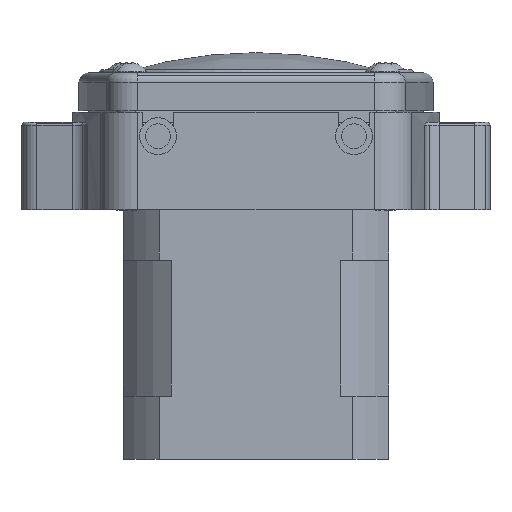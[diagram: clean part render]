
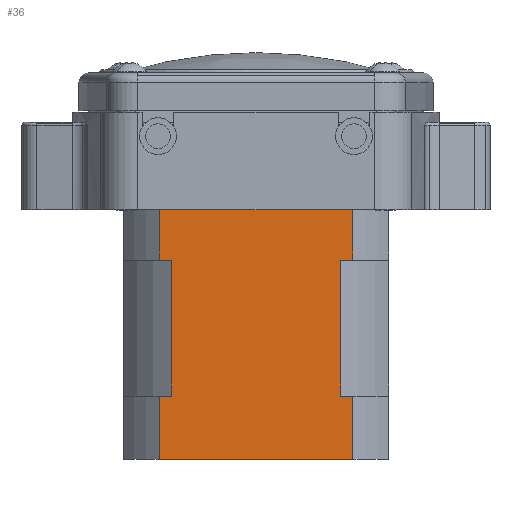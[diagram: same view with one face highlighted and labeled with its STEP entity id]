
A CAD part, front view. The second image highlights one B-rep face of the part: STEP entity #36.
In plain terms, the highlighted planar face has unit normal (0, -1, 0) as drawn and (0, 1, 0) by its records, which use the part's own axes.
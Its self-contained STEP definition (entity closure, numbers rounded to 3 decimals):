
#36 = ADVANCED_FACE ( 'NONE', ( #3004 ), #5432, .F. ) ;
#109 = VERTEX_POINT ( 'NONE', #11764 ) ;
#455 = CARTESIAN_POINT ( 'NONE',  ( -15.33, 21., -42. ) ) ;
#1117 = LINE ( 'NONE', #7301, #4912 ) ;
#1677 = CARTESIAN_POINT ( 'NONE',  ( 15.33, 21., -32. ) ) ;
#1690 = VERTEX_POINT ( 'NONE', #5611 ) ;
#1721 = ORIENTED_EDGE ( 'NONE', *, *, #1943, .T. ) ;
#1756 = LINE ( 'NONE', #18606, #18982 ) ;
#1943 = EDGE_CURVE ( 'NONE', #4294, #1690, #11090, .T. ) ;
#2139 = VERTEX_POINT ( 'NONE', #1677 ) ;
#2161 = EDGE_CURVE ( 'NONE', #20255, #11031, #14706, .T. ) ;
#2212 = AXIS2_PLACEMENT_3D ( 'NONE', #11487, #5166, #13231 ) ;
#2366 = EDGE_CURVE ( 'NONE', #13468, #2139, #1117, .T. ) ;
#2418 = CARTESIAN_POINT ( 'NONE',  ( 15.33, 21., -42. ) ) ;
#2888 = VERTEX_POINT ( 'NONE', #8568 ) ;
#2992 = VECTOR ( 'NONE', #15596, 1000. ) ;
#3004 = FACE_OUTER_BOUND ( 'NONE', #12060, .T. ) ;
#3199 = VECTOR ( 'NONE', #12692, 1000. ) ;
#3604 = ORIENTED_EDGE ( 'NONE', *, *, #23627, .T. ) ;
#3638 = VERTEX_POINT ( 'NONE', #6325 ) ;
#3762 = CARTESIAN_POINT ( 'NONE',  ( 21., 21., -10.5 ) ) ;
#4294 = VERTEX_POINT ( 'NONE', #16306 ) ;
#4406 = LINE ( 'NONE', #24883, #24873 ) ;
#4912 = VECTOR ( 'NONE', #7711, 1000. ) ;
#4922 = CARTESIAN_POINT ( 'NONE',  ( 21., 21., -2. ) ) ;
#4973 = EDGE_CURVE ( 'NONE', #3638, #2888, #9965, .T. ) ;
#5067 = VERTEX_POINT ( 'NONE', #20486 ) ;
#5091 = ORIENTED_EDGE ( 'NONE', *, *, #25705, .F. ) ;
#5166 = DIRECTION ( 'NONE',  ( 0., -1., 0. ) ) ;
#5432 = PLANE ( 'NONE',  #2212 ) ;
#5611 = CARTESIAN_POINT ( 'NONE',  ( 15.33, 21., -2. ) ) ;
#5765 = DIRECTION ( 'NONE',  ( 0., 0., 1. ) ) ;
#5982 = VERTEX_POINT ( 'NONE', #11039 ) ;
#6039 = DIRECTION ( 'NONE',  ( 0., 0., -1. ) ) ;
#6325 = CARTESIAN_POINT ( 'NONE',  ( 13.379, 21., -10.5 ) ) ;
#6731 = VECTOR ( 'NONE', #6039, 1000. ) ;
#7301 = CARTESIAN_POINT ( 'NONE',  ( 13.379, 21., -32. ) ) ;
#7418 = ORIENTED_EDGE ( 'NONE', *, *, #2161, .F. ) ;
#7709 = EDGE_CURVE ( 'NONE', #5067, #5982, #25364, .T. ) ;
#7711 = DIRECTION ( 'NONE',  ( 1., 0., 0. ) ) ;
#8375 = VERTEX_POINT ( 'NONE', #23930 ) ;
#8482 = CARTESIAN_POINT ( 'NONE',  ( -15.33, 21., -36. ) ) ;
#8568 = CARTESIAN_POINT ( 'NONE',  ( 15.33, 21., -10.5 ) ) ;
#8776 = EDGE_CURVE ( 'NONE', #8375, #2139, #20783, .T. ) ;
#9965 = LINE ( 'NONE', #3762, #2992 ) ;
#10145 = EDGE_CURVE ( 'NONE', #2888, #1690, #17825, .T. ) ;
#10583 = DIRECTION ( 'NONE',  ( 0., 0., 1. ) ) ;
#10798 = LINE ( 'NONE', #455, #15609 ) ;
#11031 = VERTEX_POINT ( 'NONE', #11088 ) ;
#11039 = CARTESIAN_POINT ( 'NONE',  ( -15.33, 21., -32. ) ) ;
#11088 = CARTESIAN_POINT ( 'NONE',  ( -13.379, 21., -10.5 ) ) ;
#11090 = LINE ( 'NONE', #4922, #14773 ) ;
#11487 = CARTESIAN_POINT ( 'NONE',  ( 21., 21., -10.5 ) ) ;
#11764 = CARTESIAN_POINT ( 'NONE',  ( -13.379, 21., -32. ) ) ;
#11907 = CARTESIAN_POINT ( 'NONE',  ( 13.379, 21., -32. ) ) ;
#12060 = EDGE_LOOP ( 'NONE', ( #18185, #23512, #20171, #20191, #13291, #12926, #20396, #3604, #26211, #7418, #5091, #1721 ) ) ;
#12692 = DIRECTION ( 'NONE',  ( 1., 0., 0. ) ) ;
#12926 = ORIENTED_EDGE ( 'NONE', *, *, #14482, .F. ) ;
#13198 = EDGE_CURVE ( 'NONE', #109, #11031, #4406, .T. ) ;
#13231 = DIRECTION ( 'NONE',  ( 0., 0., -1. ) ) ;
#13291 = ORIENTED_EDGE ( 'NONE', *, *, #8776, .F. ) ;
#13468 = VERTEX_POINT ( 'NONE', #11907 ) ;
#14482 = EDGE_CURVE ( 'NONE', #5067, #8375, #10798, .T. ) ;
#14706 = LINE ( 'NONE', #25112, #3199 ) ;
#14773 = VECTOR ( 'NONE', #19384, 1000. ) ;
#14853 = DIRECTION ( 'NONE',  ( 1., 0., 0. ) ) ;
#15596 = DIRECTION ( 'NONE',  ( 1., 0., 0. ) ) ;
#15609 = VECTOR ( 'NONE', #14853, 1000. ) ;
#15952 = VECTOR ( 'NONE', #24736, 1000. ) ;
#16306 = CARTESIAN_POINT ( 'NONE',  ( -15.33, 21., -2. ) ) ;
#16396 = DIRECTION ( 'NONE',  ( 0., 0., 1. ) ) ;
#17342 = CARTESIAN_POINT ( 'NONE',  ( -15.33, 21., -42. ) ) ;
#17825 = LINE ( 'NONE', #23701, #22539 ) ;
#18185 = ORIENTED_EDGE ( 'NONE', *, *, #10145, .F. ) ;
#18354 = LINE ( 'NONE', #8482, #6731 ) ;
#18606 = CARTESIAN_POINT ( 'NONE',  ( 13.379, 21., -32. ) ) ;
#18982 = VECTOR ( 'NONE', #23996, 1000. ) ;
#19384 = DIRECTION ( 'NONE',  ( 1., 0., 0. ) ) ;
#20077 = CARTESIAN_POINT ( 'NONE',  ( -15.33, 21., -10.5 ) ) ;
#20171 = ORIENTED_EDGE ( 'NONE', *, *, #24634, .F. ) ;
#20191 = ORIENTED_EDGE ( 'NONE', *, *, #2366, .T. ) ;
#20199 = CARTESIAN_POINT ( 'NONE',  ( 13.379, 21., -32. ) ) ;
#20255 = VERTEX_POINT ( 'NONE', #20077 ) ;
#20396 = ORIENTED_EDGE ( 'NONE', *, *, #7709, .T. ) ;
#20486 = CARTESIAN_POINT ( 'NONE',  ( -15.33, 21., -42. ) ) ;
#20783 = LINE ( 'NONE', #2418, #25521 ) ;
#21340 = DIRECTION ( 'NONE',  ( 0., 0., 1. ) ) ;
#22349 = LINE ( 'NONE', #20199, #15952 ) ;
#22539 = VECTOR ( 'NONE', #5765, 1000. ) ;
#23512 = ORIENTED_EDGE ( 'NONE', *, *, #4973, .F. ) ;
#23627 = EDGE_CURVE ( 'NONE', #5982, #109, #22349, .T. ) ;
#23701 = CARTESIAN_POINT ( 'NONE',  ( 15.33, 21., -36. ) ) ;
#23930 = CARTESIAN_POINT ( 'NONE',  ( 15.33, 21., -42. ) ) ;
#23996 = DIRECTION ( 'NONE',  ( 0., 0., 1. ) ) ;
#24634 = EDGE_CURVE ( 'NONE', #13468, #3638, #1756, .T. ) ;
#24736 = DIRECTION ( 'NONE',  ( 1., 0., 0. ) ) ;
#24873 = VECTOR ( 'NONE', #10583, 1000. ) ;
#24883 = CARTESIAN_POINT ( 'NONE',  ( -13.379, 21., -32. ) ) ;
#25112 = CARTESIAN_POINT ( 'NONE',  ( 21., 21., -10.5 ) ) ;
#25364 = LINE ( 'NONE', #17342, #25504 ) ;
#25504 = VECTOR ( 'NONE', #21340, 1000. ) ;
#25521 = VECTOR ( 'NONE', #16396, 1000. ) ;
#25705 = EDGE_CURVE ( 'NONE', #4294, #20255, #18354, .T. ) ;
#26211 = ORIENTED_EDGE ( 'NONE', *, *, #13198, .T. ) ;
